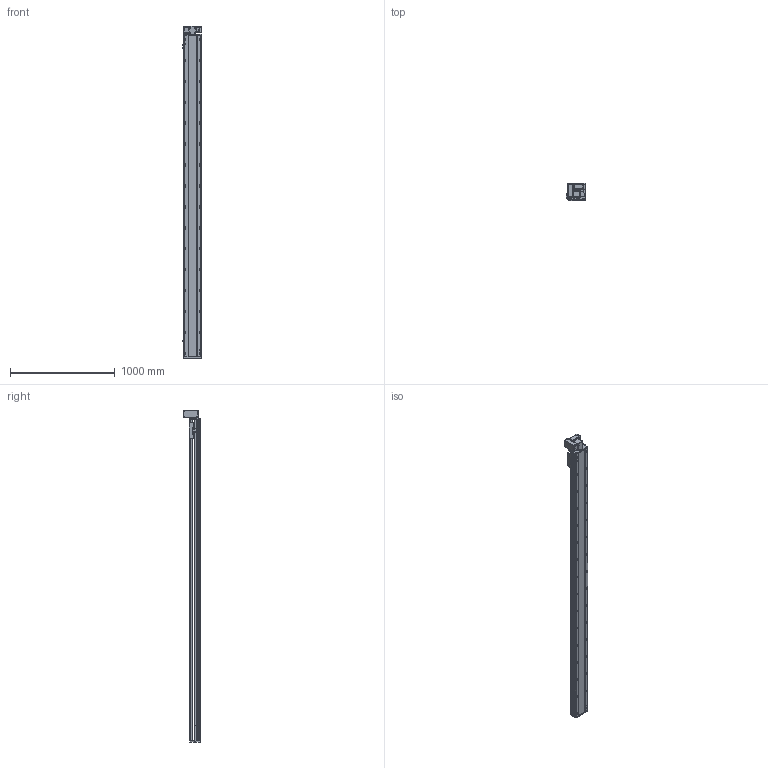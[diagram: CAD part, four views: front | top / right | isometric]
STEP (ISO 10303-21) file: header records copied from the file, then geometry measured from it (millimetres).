
FILE_DESCRIPTION (( 'STEP AP214' ), '1' );
FILE_NAME ('RTB17S-XX-2800-LW-M40-C4.STEP', '2025-12-11T07:19:23', ( '' ), ( '' ), 'SwSTEP 2.0', 'SolidWorks 2018', '' );
FILE_SCHEMA (( 'AUTOMOTIVE_DESIGN' ));
Length unit declared in the file: millimetre
Products named in the file (14): RTB17S-L-004佪裝蹟譫蟀諉釱^RTB17S-XX-XX-LW-M40-C4; RTB17S-XX-2800-LW-M40-C4; OMRON EE-SX672 传感器^RTB17S-XX-XX-LW-M40-C4; RTB14-L-018P^RTB17S-LW-々湍釱蚾饜-400W_RTB17S-XX-XX-LW-M40-C4; RTB14-L-005P--轴承塑胶压盖^RTB17S-LW-皮带座装配-400W_RTB17S-XX-XX-LW-M40-C4; 400W侜督萇儂^RTB17S-XX-XX-LW-M40-C4; RTB17S-L-001耜醱啣^RTB17S-XX-XX-LW-M40-C4; RTB17S-L-014-T20--々湍釱^RTB17S-LW-々湍釱蚾饜-400W_RTB17S-XX-XX-LW-M40-C4; RTB17S-LW-々湍釱蚾饜-400W^RTB17S-XX-XX-LW-M40-C4; RTB14-L-008-M20--萇儂啣^RTB17S-LW-々湍釱蚾饜-400W_RTB17S-XX-XX-LW-M40-C4; RTB17S-L-007奻裔^RTB17S-XX-XX-LW-M40-C4; RTH13-BL-012覜茼え俋离^RTB17S-XX-XX-LW-M40-C4; RTB14-L-017P^RTB17S-LW-々湍釱蚾饜-400W_RTB17S-XX-XX-LW-M40-C4; RTB17-R-011菁釱^RTB17S-XX-XX-LW-M40-C4
Assembly tree (16 placements, depth 3):
  RTB17S-XX-2800-LW-M40-C4
    RTB17-R-011菁釱^RTB17S-XX-XX-LW-M40-C4
    RTB17S-L-007奻裔^RTB17S-XX-XX-LW-M40-C4
    OMRON EE-SX672 传感器^RTB17S-XX-XX-LW-M40-C4  x3
    RTB17S-L-001耜醱啣^RTB17S-XX-XX-LW-M40-C4
    400W侜督萇儂^RTB17S-XX-XX-LW-M40-C4
    RTB17S-L-004佪裝蹟譫蟀諉釱^RTB17S-XX-XX-LW-M40-C4
    RTH13-BL-012覜茼え俋离^RTB17S-XX-XX-LW-M40-C4
    RTB17S-LW-々湍釱蚾饜-400W^RTB17S-XX-XX-LW-M40-C4
      RTB17S-L-014-T20--々湍釱^RTB17S-LW-々湍釱蚾饜-400W_RTB17S-XX-XX-LW-M40-C4
      RTB14-L-005P--轴承塑胶压盖^RTB17S-LW-皮带座装配-400W_RTB17S-XX-XX-LW-M40-C4
      RTB14-L-008-M20--萇儂啣^RTB17S-LW-々湍釱蚾饜-400W_RTB17S-XX-XX-LW-M40-C4
      RTB14-L-017P^RTB17S-LW-々湍釱蚾饜-400W_RTB17S-XX-XX-LW-M40-C4  x2
      RTB14-L-018P^RTB17S-LW-々湍釱蚾饜-400W_RTB17S-XX-XX-LW-M40-C4
Bounding box: 186 x 160.5 x 3172.5 mm (x, y, z)
Volume: 27055815.2 mm3; surface area: 3097890 mm2
Topology: 15 solids, 15 shells, 2349 faces, 6573 edges, 4293 vertices
Faces by surface type: plane 1086, cylinder 815, bspline 301, cone 139, torus 8
Entity records: 69545 total; most frequent: CARTESIAN_POINT 19778, ORIENTED_EDGE 9990, DIRECTION 9206, EDGE_CURVE 4995, VERTEX_POINT 3281, AXIS2_PLACEMENT_3D 3211, LINE 2784, VECTOR 2784
